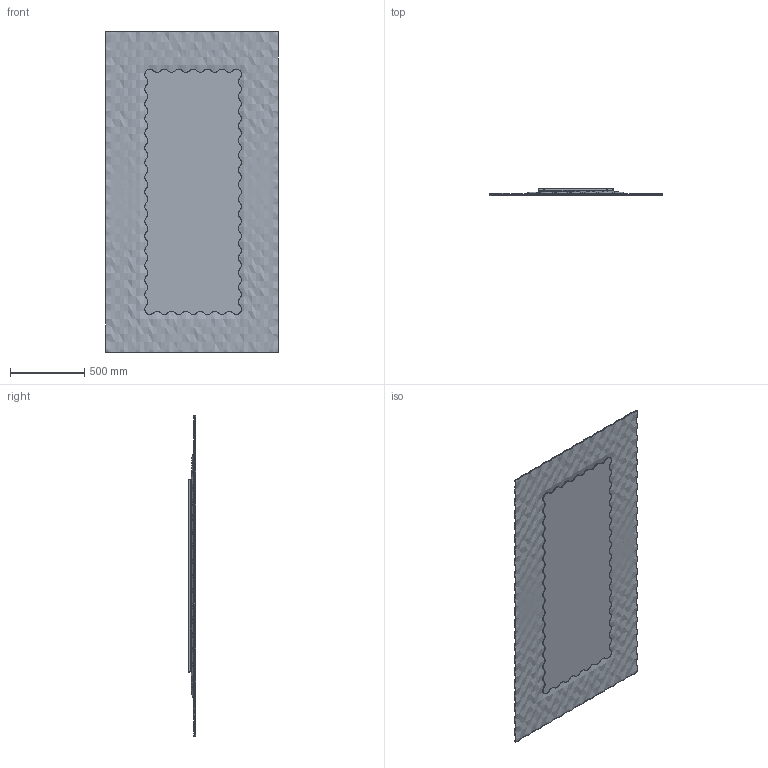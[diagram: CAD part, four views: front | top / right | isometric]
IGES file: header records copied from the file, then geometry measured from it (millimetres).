
Global section: file name: Z:\3D_LQ\POP_rev2021\xWeb\116x216\POP_116x216.igs; native system: Rhinoceros ( Aug 11 2021 ); preprocessor: Trout Lake IGES 012 Aug 11 2021; date: 250221.165839; units: millimetre
Bounding box: 1161.21 x 50.89 x 2160.32 mm (x, y, z)
Surface area: 8156578.1 mm2 (no closed solid volume)
Topology: 0 solids, 0 shells, 172 faces, 4322 edges, 4318 vertices
Faces by surface type: bspline 172
